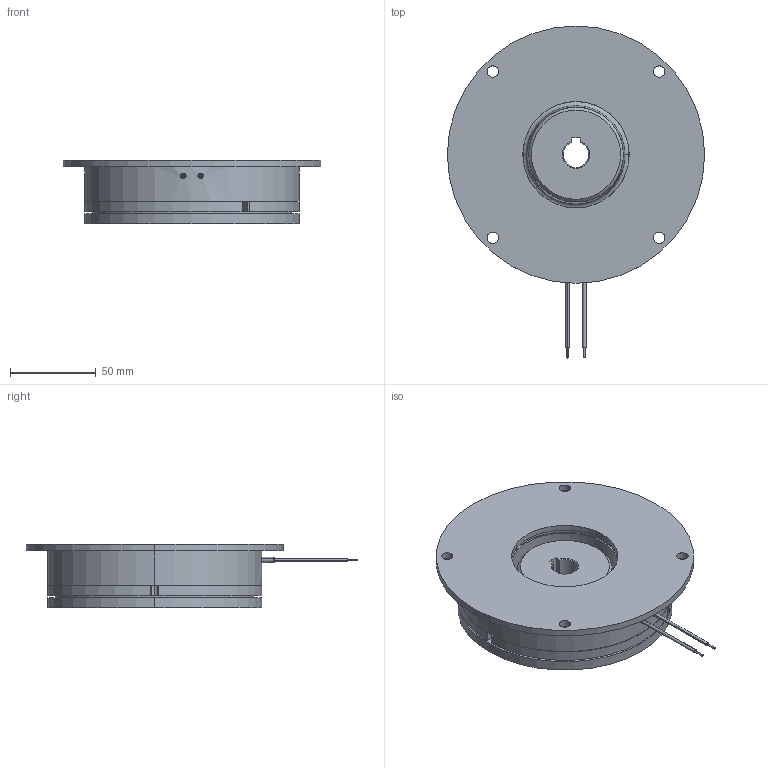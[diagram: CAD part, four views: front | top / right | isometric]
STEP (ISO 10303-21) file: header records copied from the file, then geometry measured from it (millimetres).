
FILE_DESCRIPTION (( 'STEP AP214' ), '1' );
FILE_NAME ('dr_bk_0902-120_mu.STEP', '2021-11-10T10:16:48', ( '' ), ( '' ), 'SwSTEP 2.0', 'SolidWorks 2019', '' );
FILE_SCHEMA (( 'AUTOMOTIVE_DESIGN' ));
Length unit declared in the file: millimetre
Products named in the file (9): 10068699_000; 10068854_000; 10068849_000; 10068853_000_Montagezustand; 10068852_000; 10068855_000; dr_bk_0902-120_mu; 10068848_000_eingebaut in 09.P1.010-0177 Ankerteil; 10068851_000
Assembly tree (18 placements, depth 4):
  dr_bk_0902-120_mu
    10068699_000
    10068849_000
      10068855_000
      10068852_000
        10068851_000
        10068854_000
        10068853_000_Montagezustand  x3
        10068848_000_eingebaut in 09.P1.010-0177 Ankerteil  x3
      10068848_000_eingebaut in 09.P1.010-0177 Ankerteil  x3
      10068853_000_Montagezustand  x3
Bounding box: 150 x 193.5 x 37.2 mm (x, y, z)
Volume: 419832.5 mm3; surface area: 117152.9 mm2
Topology: 18 solids, 18 shells, 587 faces, 1499 edges, 958 vertices
Faces by surface type: cylinder 183, plane 158, bspline 132, cone 78, torus 24, sphere 12
Entity records: 23341 total; most frequent: CARTESIAN_POINT 11787, ORIENTED_EDGE 2474, DIRECTION 1919, EDGE_CURVE 1237, VERTEX_POINT 808, AXIS2_PLACEMENT_3D 701, EDGE_LOOP 541, VECTOR 517
